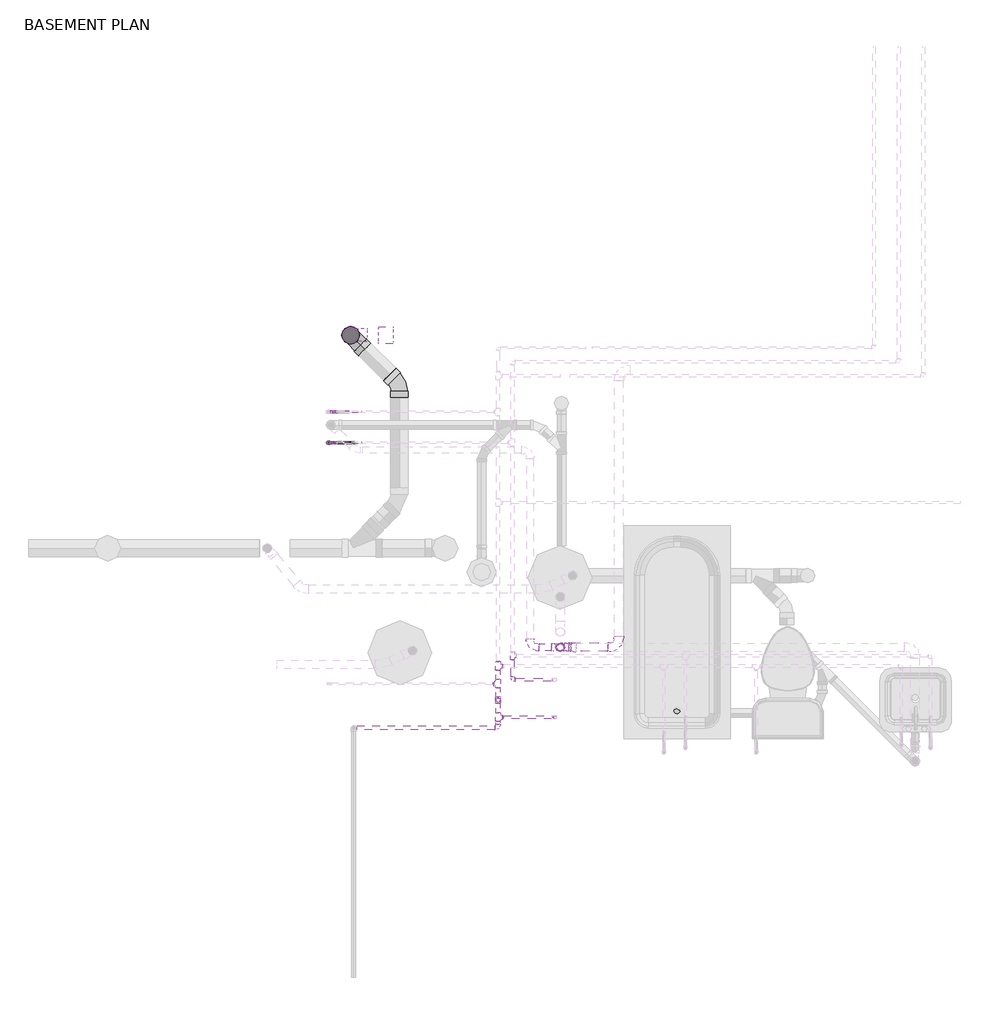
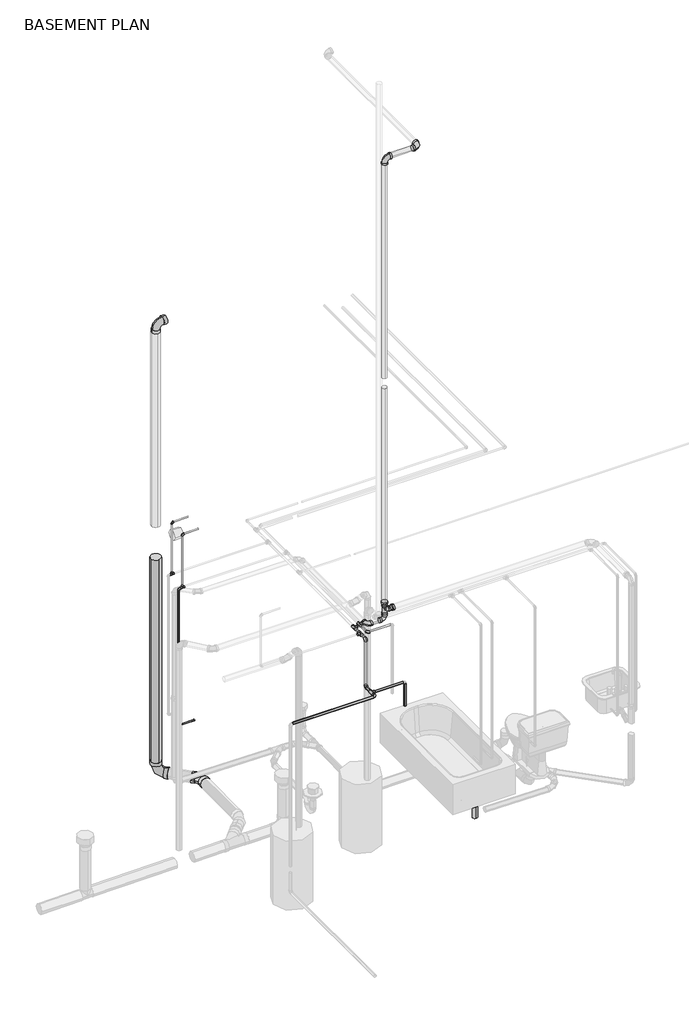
# One storey, part 2 of 6: 28 pipe fittings, 26 pipe segments.
"""IFC4 building model written with IfcOpenShell, lengths in millimetres."""

from ifc_helpers import new_model, si_unit, point, frame, frame_2d, origin, place, context, project, spatial, circle_curve, trimmed, segment, composite_curve, outline, extrude, transform, mapped, element, save
from components import bend_pvc_sch_40_dwv_standard_738aab8b, bend_pvc_sch_40_dwv_standard_1eaeee76, bend_pvc_sch_40_dwv_standard_a4b99d37, bend_pvc_sch_40_dwv_standard_6b8d37c2, bend_pvc_sch_40_dwv_standard_eef3f322, pipe_elbow_copper_k_a25a5501, pipe_elbow_copper_k_feaaf02c, pipe_elbow_copper_k_e010e987, pipe_elbow_copper_k_c5202fef, pipe_elbow_copper_k_aad62f2d, pipe_tee_copper_k_feafe2f1, pipe_tee_copper_k_ee363fbf, pipe_tee_copper_k_1a6ca384, pipe_transition_copper_k_b72b171f, pipe_transition_copper_k_b4f16853, pipe_transition_copper_k_b63fd5dd, reducer_pvc_sch_40_dwv_standard_230e9924, tee_sanitary_pvc_sch_40_dwv_standard_4981b708

model = new_model("IFC4")

# Units and contexts
model_context = context("Model", 3, world=origin())
ifc_project = project(units=[si_unit("LENGTHUNIT", "METRE", prefix="MILLI")], contexts=[model_context])

# Site, building, storey
site = spatial("IfcSite", under=ifc_project)
building = spatial("IfcBuilding", under=site)
storey = spatial("IfcBuildingStorey", under=building, Name="BASEMENT PLAN", Elevation=-2743.2)

# Pipe fittings
placement = place(None, origin())
bend_pvc_sch_40_dwv_standard_shape = bend_pvc_sch_40_dwv_standard_738aab8b(model_context)
element("IfcPipeFitting", 1, ObjectType="Bend - PVC - Sch 40 - DWV : Standard", at=placement, inside=storey, context=model_context, shape_type="MappedRepresentation", body=[
    mapped(bend_pvc_sch_40_dwv_standard_shape, transform((12840.5254798, 4910.504948, -457.2000069), x_axis=(0.0, -0.9999999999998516, -5.449149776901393e-07), y_axis=(1.0, 0.0, 0.0), z_axis=(0.0, -5.449149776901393e-07, 0.9999999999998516))),
])
element("IfcPipeFitting", 2, ObjectType="Bend - PVC - Sch 40 - DWV : Standard", at=placement, inside=storey, context=model_context, shape_type="MappedRepresentation", body=[
    mapped(bend_pvc_sch_40_dwv_standard_shape, transform((13056.4098972, 4910.504948, -457.2000069), x_axis=(1.0, 0.0, 0.0), y_axis=(0.0, 0.0, 1.0), z_axis=(0.0, -1.0, 0.0))),
])
bend_pvc_sch_40_dwv_standard_2_shape = bend_pvc_sch_40_dwv_standard_1eaeee76(model_context)
element("IfcPipeFitting", 3, ObjectType="Bend - PVC - Sch 40 - DWV : Standard", at=placement, inside=storey, context=model_context, shape_type="MappedRepresentation", body=[
    mapped(bend_pvc_sch_40_dwv_standard_2_shape, transform((13475.5254798, 4910.5049895, 5486.4), x_axis=(1.0, 0.0, 0.0), y_axis=(0.0, 1.0, 0.0), z_axis=(0.0, 0.0, 1.0))),
])
element("IfcPipeFitting", 4, ObjectType="Bend - PVC - Sch 40 - DWV : Standard", at=placement, inside=storey, context=model_context, shape_type="MappedRepresentation", body=[
    mapped(bend_pvc_sch_40_dwv_standard_2_shape, transform((13056.4098972, 4910.5049895, 5486.4), x_axis=(0.0, 0.0, 1.0), y_axis=(1.0, 0.0, 0.0), z_axis=(0.0, 1.0, 0.0))),
])
bend_pvc_sch_40_dwv_standard_3_shape = bend_pvc_sch_40_dwv_standard_a4b99d37(model_context)
element("IfcPipeFitting", 5, ObjectType="Bend - PVC - Sch 40 - DWV : Standard", at=placement, inside=storey, context=model_context, shape_type="MappedRepresentation", body=[
    mapped(bend_pvc_sch_40_dwv_standard_3_shape, transform((11556.8678751, 7142.1072744, 2531.9996701), x_axis=(0.0, 0.0, 1.0), y_axis=(1.0, 0.0, 0.0), z_axis=(0.0, 1.0, 0.0))),
])
bend_pvc_sch_40_dwv_standard_4_shape = bend_pvc_sch_40_dwv_standard_6b8d37c2(model_context)
element("IfcPipeFitting", 6, ObjectType="Bend - PVC - Sch 40 - DWV : Standard", at=placement, inside=storey, context=model_context, shape_type="MappedRepresentation", body=[
    mapped(bend_pvc_sch_40_dwv_standard_4_shape, transform((11556.8665683, 7141.4556909, -3249.6452653), x_axis=(0.0, -3.1470897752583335e-05, -0.9999999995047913), y_axis=(0.7071260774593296, -0.7070874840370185, 2.2252677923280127e-05), z_axis=(-0.7070874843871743, -0.7071260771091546, 2.2253892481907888e-05))),
])
bend_pvc_sch_40_dwv_standard_5_shape = bend_pvc_sch_40_dwv_standard_eef3f322(model_context)
element("IfcPipeFitting", 7, ObjectType="Bend - PVC - Sch 40 - DWV : Standard", at=placement, inside=storey, context=model_context, shape_type="MappedRepresentation", body=[
    mapped(bend_pvc_sch_40_dwv_standard_5_shape, transform((11905.1855124, 6793.1854619, -3253.2730352), x_axis=(0.0, 0.9999288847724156, 0.011925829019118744), y_axis=(-0.9999988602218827, 1.8005849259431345e-05, -0.0015097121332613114), z_axis=(-0.0015098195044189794, -0.011925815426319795, 0.9999277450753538))),
])
pipe_elbow_copper_k_shape = pipe_elbow_copper_k_a25a5501(model_context)
element("IfcPipeFitting", 8, ObjectType="Pipe Elbow : Copper- K", at=placement, inside=storey, context=model_context, shape_type="MappedRepresentation", body=[
    mapped(pipe_elbow_copper_k_shape, transform((12611.9254798, 4334.9724615, -951.8307802), x_axis=(1.0, 0.0, 0.0), y_axis=(0.0, 0.999999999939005, 1.1044907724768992e-05), z_axis=(0.0, -1.1044907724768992e-05, 0.999999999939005))),
])
pipe_elbow_copper_k_2_shape = pipe_elbow_copper_k_feaaf02c(model_context)
element("IfcPipeFitting", 9, ObjectType="Pipe Elbow : Copper- K", at=placement, inside=storey, context=model_context, shape_type="MappedRepresentation", body=[
    mapped(pipe_elbow_copper_k_2_shape, transform((12713.5254798, 4677.7551356, -372.5523585), x_axis=(0.0, -1.0, 0.0), y_axis=(1.0, 0.0, 0.0), z_axis=(0.0, 0.0, 1.0))),
])
pipe_elbow_copper_k_3_shape = pipe_elbow_copper_k_e010e987(model_context)
element("IfcPipeFitting", 10, ObjectType="Pipe Elbow : Copper- K", at=placement, inside=storey, context=model_context, shape_type="MappedRepresentation", body=[
    mapped(pipe_elbow_copper_k_3_shape, transform((12611.9254798, 4533.7067363, -951.8259352), x_axis=(0.0, 0.9999999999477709, 1.022048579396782e-05), y_axis=(0.0, -1.022048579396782e-05, 0.9999999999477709), z_axis=(1.0, 0.0, 0.0))),
])
pipe_elbow_copper_k_4_shape = pipe_elbow_copper_k_c5202fef(model_context)
element("IfcPipeFitting", 11, ObjectType="Pipe Elbow : Copper- K", at=placement, inside=storey, context=model_context, shape_type="MappedRepresentation", body=[
    mapped(pipe_elbow_copper_k_4_shape, transform((12611.9254798, 4533.6981833, -334.4523585), x_axis=(0.0, -2.044097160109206e-05, 0.9999999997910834), y_axis=(0.0, 0.9999999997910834, 2.044097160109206e-05), z_axis=(-1.0, 0.0, 0.0))),
])
pipe_elbow_copper_k_5_shape = pipe_elbow_copper_k_aad62f2d(model_context)
element("IfcPipeFitting", 12, ObjectType="Pipe Elbow : Copper- K", at=placement, inside=storey, context=model_context, shape_type="MappedRepresentation", body=[
    mapped(pipe_elbow_copper_k_5_shape, transform((11392.7254798, 6373.0955073, -372.5523585), x_axis=(-1.0, 0.0, 0.0), y_axis=(0.0, 0.0, -1.0), z_axis=(0.0, -1.0, 0.0))),
])
element("IfcPipeFitting", 13, ObjectType="Pipe Elbow : Copper- K", at=placement, inside=storey, context=model_context, shape_type="MappedRepresentation", body=[
    mapped(pipe_elbow_copper_k_5_shape, transform((11392.7254798, 6373.0955073, -2133.6), x_axis=(0.0, 0.0, -1.0), y_axis=(1.0, 0.0, 0.0), z_axis=(0.0, -1.0, 0.0))),
])
element("IfcPipeFitting", 14, ObjectType="Pipe Elbow : Copper- K", at=placement, inside=storey, context=model_context, shape_type="MappedRepresentation", body=[
    mapped(pipe_elbow_copper_k_5_shape, transform((11437.2386676, 6593.4490306, 330.2), x_axis=(0.0, 0.0, 1.0), y_axis=(1.0, 0.0, 0.0), z_axis=(0.0, 1.0, 0.0))),
])
element("IfcPipeFitting", 15, ObjectType="Pipe Elbow : Copper- K", at=placement, inside=storey, context=model_context, shape_type="MappedRepresentation", body=[
    mapped(pipe_elbow_copper_k_5_shape, transform((11436.6879994, 6373.0955073, 311.15), x_axis=(0.0, 0.0, 1.0), y_axis=(1.0, 0.0, 0.0), z_axis=(0.0, 1.0, 0.0))),
])
pipe_tee_copper_k_shape = pipe_tee_copper_k_feafe2f1(model_context)
element("IfcPipeFitting", 16, ObjectType="Pipe Tee : Copper- K", at=placement, inside=storey, context=model_context, shape_type="MappedRepresentation", body=[
    mapped(pipe_tee_copper_k_shape, transform((12611.9254798, 4411.6327444, -951.8299335), x_axis=(0.0, -0.999999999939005, -1.1044907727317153e-05), y_axis=(-1.0, 0.0, 0.0), z_axis=(0.0, 1.1044907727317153e-05, -0.999999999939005))),
])
element("IfcPipeFitting", 17, ObjectType="Pipe Tee : Copper- K", at=placement, inside=storey, context=model_context, shape_type="MappedRepresentation", body=[
    mapped(pipe_tee_copper_k_shape, transform((12611.9254798, 4776.6618491, -334.4523585), x_axis=(0.0, -1.0, 0.0), y_axis=(-1.0, 0.0, 0.0), z_axis=(0.0, 0.0, -1.0))),
])
element("IfcPipeFitting", 18, ObjectType="Pipe Tee : Copper- K", at=placement, inside=storey, context=model_context, shape_type="MappedRepresentation", body=[
    mapped(pipe_tee_copper_k_shape, transform((12611.9254798, 4650.3490306, -334.4523585), x_axis=(0.0, -1.0, 0.0), y_axis=(1.0, 0.0, 0.0), z_axis=(0.0, 0.0, 1.0))),
])
pipe_tee_copper_k_2_shape = pipe_tee_copper_k_ee363fbf(model_context)
element("IfcPipeFitting", 19, ObjectType="Pipe Tee : Copper- K", at=placement, inside=storey, context=model_context, shape_type="MappedRepresentation", body=[
    mapped(pipe_tee_copper_k_2_shape, transform((12713.5254798, 4850.0281655, -372.5523585), x_axis=(0.0, -1.0, 0.0), y_axis=(-1.0, 0.0, 0.0), z_axis=(0.0, 0.0, -1.0))),
])
pipe_tee_copper_k_3_shape = pipe_tee_copper_k_1a6ca384(model_context)
element("IfcPipeFitting", 20, ObjectType="Pipe Tee : Copper- K", at=placement, inside=storey, context=model_context, shape_type="MappedRepresentation", body=[
    mapped(pipe_tee_copper_k_3_shape, transform((11437.2386676, 6593.4490306, -334.4523585), x_axis=(1.0, 0.0, 0.0), y_axis=(0.0, 0.0, -1.0), z_axis=(0.0, 1.0, 0.0))),
])
element("IfcPipeFitting", 21, ObjectType="Pipe Tee : Copper- K", at=placement, inside=storey, context=model_context, shape_type="MappedRepresentation", body=[
    mapped(pipe_tee_copper_k_3_shape, transform((11436.6879994, 6373.0955073, -372.5523585), x_axis=(1.0, 0.0, 0.0), y_axis=(0.0, 0.0, -1.0), z_axis=(0.0, 1.0, 0.0))),
])
pipe_transition_copper_k_shape = pipe_transition_copper_k_b72b171f(model_context)
element("IfcPipeFitting", 22, ObjectType="Pipe Transition : Copper- K", at=placement, inside=storey, context=model_context, shape_type="MappedRepresentation", body=[
    mapped(pipe_transition_copper_k_shape, transform((12642.0879798, 4411.6327444, -951.8299335), x_axis=(1.0, 0.0, 0.0), y_axis=(0.0, 0.999999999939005, 1.1044907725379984e-05), z_axis=(0.0, -1.1044907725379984e-05, 0.999999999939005))),
])
pipe_transition_copper_k_2_shape = pipe_transition_copper_k_b4f16853(model_context)
element("IfcPipeFitting", 23, ObjectType="Pipe Transition : Copper- K", at=placement, inside=storey, context=model_context, shape_type="MappedRepresentation", body=[
    mapped(pipe_transition_copper_k_2_shape, transform((12642.0879798, 4776.6618491, -334.4523585), x_axis=(1.0, 0.0, 0.0), y_axis=(0.0, 1.0, 0.0), z_axis=(0.0, 0.0, 1.0))),
])
element("IfcPipeFitting", 24, ObjectType="Pipe Transition : Copper- K", at=placement, inside=storey, context=model_context, shape_type="MappedRepresentation", body=[
    mapped(pipe_transition_copper_k_2_shape, transform((12611.9254798, 4806.8243491, -334.4523585), x_axis=(0.0, 1.0, 0.0), y_axis=(-1.0, 0.0, 0.0), z_axis=(0.0, 0.0, 1.0))),
])
pipe_transition_copper_k_3_shape = pipe_transition_copper_k_b63fd5dd(model_context)
element("IfcPipeFitting", 25, ObjectType="Pipe Transition : Copper- K", at=placement, inside=storey, context=model_context, shape_type="MappedRepresentation", body=[
    mapped(pipe_transition_copper_k_3_shape, transform((12581.7629798, 4650.3490306, -334.4523585), x_axis=(-1.0, 0.0, 0.0), y_axis=(0.0, -1.0, 0.0), z_axis=(0.0, 0.0, 1.0))),
])
reducer_pvc_sch_40_dwv_standard_shape = reducer_pvc_sch_40_dwv_standard_230e9924(model_context)
element("IfcPipeFitting", 26, ObjectType="Reducer - PVC - Sch 40 - DWV : Standard", at=placement, inside=storey, context=model_context, shape_type="MappedRepresentation", body=[
    mapped(reducer_pvc_sch_40_dwv_standard_shape, transform((13056.4098972, 4910.5049895, -282.3901833), x_axis=(0.0, 0.0, 1.0), y_axis=(-1.0, 0.0, 0.0), z_axis=(0.0, -1.0, 0.0))),
])
element("IfcPipeFitting", 27, ObjectType="Reducer - PVC - Sch 40 - DWV : Standard", at=placement, inside=storey, context=model_context, shape_type="MappedRepresentation", body=[
    mapped(reducer_pvc_sch_40_dwv_standard_shape, transform((13118.3096972, 4910.5049895, -344.2899833), x_axis=(1.0, 0.0, 0.0), y_axis=(0.0, 1.0, 0.0), z_axis=(0.0, 0.0, 1.0))),
])
tee_sanitary_pvc_sch_40_dwv_standard_shape = tee_sanitary_pvc_sch_40_dwv_standard_4981b708(model_context)
element("IfcPipeFitting", 28, ObjectType="Tee Sanitary - PVC - Sch 40 - DWV : Standard", at=placement, inside=storey, context=model_context, shape_type="MappedRepresentation", body=[
    mapped(tee_sanitary_pvc_sch_40_dwv_standard_shape, transform((13056.4098972, 4910.5049895, -344.2899833), x_axis=(0.0, 0.0, -1.0), y_axis=(-1.0, 0.0, 0.0), z_axis=(0.0, 1.0, 0.0))),
])

# Pipe segments
element("IfcPipeSegment", 29, ObjectType="Cast Iron - SAN/STORM", at=placement, inside=storey, context=model_context, shape_type="SweptSolid", body=[
    extrude(outline(composite_curve([segment(trimmed(circle_curve(frame_2d((0.0, 30.1624999)), 30.1625), [point((-30.1625, 30.1624999))], [point((0.0, 60.3249999))], False, "CARTESIAN"), True, "CONTINUOUS"), segment(trimmed(circle_curve(frame_2d((0.0, 30.1624999)), 30.1625), [point((0.0, 60.3249999))], [point((30.1625, 30.1624999))], False, "CARTESIAN"), True, "CONTINUOUS"), segment(trimmed(circle_curve(frame_2d((0.0, 30.1624999)), 30.1625), [point((30.1625, 30.1624999))], [point((0.0, 0.0))], False, "CARTESIAN"), True, "CONTINUOUS"), segment(trimmed(circle_curve(frame_2d((0.0, 30.1624999)), 30.1625), [point((0.0, 0.0))], [point((-30.1625, 30.1624999))], False, "CARTESIAN"), True, "CONTINUOUS")], self_intersect=False)), frame((13888.2767062, 4410.5952507, -3018.9380722), z_axis=(0.0, -2.9941069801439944e-05, 0.9999999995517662), x_axis=(1.0, 0.0, 0.0)), (0.0, 0.0, 1.0), 312.0834169),
])
element("IfcPipeSegment", 30, ObjectType="Cast Iron - SAN/STORM", at=placement, inside=storey, context=model_context, shape_type="SweptSolid", body=[
    extrude(outline(composite_curve([segment(trimmed(circle_curve(frame_2d((0.0, -61.1187499)), 61.11875), [point((-61.11875, -61.1187499))], [point((0.0, 0.0))], False, "CARTESIAN"), True, "CONTINUOUS"), segment(trimmed(circle_curve(frame_2d((0.0, -61.1187499)), 61.11875), [point((0.0, 0.0))], [point((61.11875, -61.1187499))], False, "CARTESIAN"), True, "CONTINUOUS"), segment(trimmed(circle_curve(frame_2d((0.0, -61.1187499)), 61.11875), [point((61.11875, -61.1187499))], [point((0.0, -122.2374999))], False, "CARTESIAN"), True, "CONTINUOUS"), segment(trimmed(circle_curve(frame_2d((0.0, -61.1187499)), 61.11875), [point((0.0, -122.2374999))], [point((-61.11875, -61.1187499))], False, "CARTESIAN"), True, "CONTINUOUS")], self_intersect=False)), frame((11556.8665683, 7080.3414378, -3106.7631533), z_axis=(4.992467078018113e-07, 0.00011636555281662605, 0.9999999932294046), x_axis=(-0.9999999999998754, 5.8093974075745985e-11, 4.992467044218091e-07)), (0.0, 0.0, 1.0), 2617.6864191),
])
element("IfcPipeSegment", 31, ObjectType="Cast Iron - SAN/STORM", at=placement, inside=storey, context=model_context, shape_type="SweptSolid", body=[
    extrude(outline(composite_curve([segment(trimmed(circle_curve(frame_2d((7141.7886235, -279.0179278)), 61.11875), [point((7080.6698735, -279.0179278))], [point((7141.7886235, -217.8991778))], False, "CARTESIAN"), True, "CONTINUOUS"), segment(trimmed(circle_curve(frame_2d((7141.7886235, -279.0179278)), 61.11875), [point((7141.7886235, -217.8991778))], [point((7202.9073735, -279.0179278))], False, "CARTESIAN"), True, "CONTINUOUS"), segment(trimmed(circle_curve(frame_2d((7141.7886235, -279.0179278)), 61.11875), [point((7202.9073735, -279.0179278))], [point((7141.7886235, -340.1366778))], False, "CARTESIAN"), True, "CONTINUOUS"), segment(trimmed(circle_curve(frame_2d((7141.7886235, -279.0179278)), 61.11875), [point((7141.7886235, -340.1366778))], [point((7080.6698735, -279.0179278))], False, "CARTESIAN"), True, "CONTINUOUS")], self_intersect=False)), frame((11756.4761564, 0.0, 0.0), z_axis=(1.0, 0.0, 0.0), x_axis=(0.0, 1.0, 0.0)), (0.0, 0.0, 1.0), 102.068088),
])
element("IfcPipeSegment", 32, ObjectType="Cast Iron - SAN/STORM", at=placement, inside=storey, context=model_context, shape_type="SweptSolid", body=[
    extrude(outline(composite_curve([segment(trimmed(circle_curve(frame_2d((0.0, 50.403125)), 50.403125), [point((-50.403125, 50.403125))], [point((0.0, 100.80625))], False, "CARTESIAN"), True, "CONTINUOUS"), segment(trimmed(circle_curve(frame_2d((0.0, 50.403125)), 50.403125), [point((0.0, 100.80625))], [point((50.403125, 50.403125))], False, "CARTESIAN"), True, "CONTINUOUS"), segment(trimmed(circle_curve(frame_2d((0.0, 50.403125)), 50.403125), [point((50.403125, 50.403125))], [point((0.0, 0.0))], False, "CARTESIAN"), True, "CONTINUOUS"), segment(trimmed(circle_curve(frame_2d((0.0, 50.403125)), 50.403125), [point((0.0, 0.0))], [point((-50.403125, 50.403125))], False, "CARTESIAN"), True, "CONTINUOUS")], self_intersect=False)), frame((11556.8678751, 7091.4086063, -75.2960125), z_axis=(0.0, 0.00011862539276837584, 0.9999999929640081), x_axis=(1.0, 0.0, 0.0)), (0.0, 0.0, 1.0), 2491.4014793),
])
element("IfcPipeSegment", 33, ObjectType="Copper", at=placement, inside=storey, context=model_context, shape_type="SweptSolid", body=[
    extrude(outline(composite_curve([segment(trimmed(circle_curve(frame_2d((4334.9724615, -951.8313413)), 14.2875), [point((4320.6849615, -951.8313413))], [point((4334.9724615, -937.5438413))], False, "CARTESIAN"), True, "CONTINUOUS"), segment(trimmed(circle_curve(frame_2d((4334.9724615, -951.8313413)), 14.2875), [point((4334.9724615, -937.5438413))], [point((4349.2599615, -951.8313413))], False, "CARTESIAN"), True, "CONTINUOUS"), segment(trimmed(circle_curve(frame_2d((4334.9724615, -951.8313413)), 14.2875), [point((4349.2599615, -951.8313413))], [point((4334.9724615, -966.1188413))], False, "CARTESIAN"), True, "CONTINUOUS"), segment(trimmed(circle_curve(frame_2d((4334.9724615, -951.8313413)), 14.2875), [point((4334.9724615, -966.1188413))], [point((4320.6849615, -951.8313413))], False, "CARTESIAN"), True, "CONTINUOUS")], self_intersect=False)), frame((11602.0554462, 0.0, 0.0), z_axis=(1.0, 0.0, 0.0), x_axis=(0.0, 1.0, 0.0)), (0.0, 0.0, 1.0), 986.0575336),
])
element("IfcPipeSegment", 34, ObjectType="Copper", at=placement, inside=storey, context=model_context, shape_type="SweptSolid", body=[
    extrude(outline(composite_curve([segment(trimmed(circle_curve(frame_2d((4411.6327443, -951.8226445)), 11.1125), [point((4400.5202443, -951.8226445))], [point((4411.6327443, -940.7101445))], False, "CARTESIAN"), True, "CONTINUOUS"), segment(trimmed(circle_curve(frame_2d((4411.6327443, -951.8226445)), 11.1125), [point((4411.6327443, -940.7101445))], [point((4422.7452443, -951.8226445))], False, "CARTESIAN"), True, "CONTINUOUS"), segment(trimmed(circle_curve(frame_2d((4411.6327443, -951.8226445)), 11.1125), [point((4422.7452443, -951.8226445))], [point((4411.6327443, -962.9351445))], False, "CARTESIAN"), True, "CONTINUOUS"), segment(trimmed(circle_curve(frame_2d((4411.6327443, -951.8226445)), 11.1125), [point((4411.6327443, -962.9351445))], [point((4400.5202443, -951.8226445))], False, "CARTESIAN"), True, "CONTINUOUS")], self_intersect=False)), frame((12649.2317298, 0.0, 0.0), z_axis=(1.0, 0.0, 0.0), x_axis=(0.0, 1.0, 0.0)), (0.0, 0.0, 1.0), 348.45625),
])
element("IfcPipeSegment", 35, ObjectType="Copper", at=placement, inside=storey, context=model_context, shape_type="SweptSolid", body=[
    extrude(outline(composite_curve([segment(trimmed(circle_curve(frame_2d((-951.8305172, 12611.9254798)), 14.2875), [point((-951.8305172, 12626.2129798))], [point((-937.5430172, 12611.9254798))], False, "CARTESIAN"), True, "CONTINUOUS"), segment(trimmed(circle_curve(frame_2d((-951.8305172, 12611.9254798)), 14.2875), [point((-937.5430172, 12611.9254798))], [point((-951.8305172, 12597.6379798))], False, "CARTESIAN"), True, "CONTINUOUS"), segment(trimmed(circle_curve(frame_2d((-951.8305172, 12611.9254798)), 14.2875), [point((-951.8305172, 12597.6379798))], [point((-966.1180172, 12611.9254798))], False, "CARTESIAN"), True, "CONTINUOUS"), segment(trimmed(circle_curve(frame_2d((-951.8305172, 12611.9254798)), 14.2875), [point((-966.1180172, 12611.9254798))], [point((-951.8305172, 12626.2129798))], False, "CARTESIAN"), True, "CONTINUOUS")], self_intersect=False)), frame((0.0, 4358.7849615, 0.0), z_axis=(0.0, 1.0, 0.0), x_axis=(0.0, 0.0, 1.0)), (0.0, 0.0, 1.0), 22.6852829),
])
element("IfcPipeSegment", 36, ObjectType="Copper", at=placement, inside=storey, context=model_context, shape_type="SweptSolid", body=[
    extrude(outline(composite_curve([segment(trimmed(circle_curve(frame_2d((0.0, -11.1125)), 11.1125), [point((-11.1125, -11.1125))], [point((0.0, 0.0))], False, "CARTESIAN"), True, "CONTINUOUS"), segment(trimmed(circle_curve(frame_2d((0.0, -11.1125)), 11.1125), [point((0.0, 0.0))], [point((11.1125, -11.1125))], False, "CARTESIAN"), True, "CONTINUOUS"), segment(trimmed(circle_curve(frame_2d((0.0, -11.1125)), 11.1125), [point((11.1125, -11.1125))], [point((0.0, -22.225))], False, "CARTESIAN"), True, "CONTINUOUS"), segment(trimmed(circle_curve(frame_2d((0.0, -11.1125)), 11.1125), [point((0.0, -22.225))], [point((-11.1125, -11.1125))], False, "CARTESIAN"), True, "CONTINUOUS")], self_intersect=False)), frame((13018.3254798, 4400.520861, -1261.3853208), z_axis=(0.0, -2.1346763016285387e-06, 0.9999999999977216), x_axis=(-1.0, 0.0, 0.0)), (0.0, 0.0, 1.0), 288.9251525),
])
element("IfcPipeSegment", 37, ObjectType="Copper", at=placement, inside=storey, context=model_context, shape_type="SweptSolid", body=[
    extrude(outline(composite_curve([segment(trimmed(circle_curve(frame_2d((4677.7551356, -372.5523585)), 11.1125), [point((4688.8676356, -372.5523585))], [point((4677.7551356, -383.6648585))], False, "CARTESIAN"), True, "CONTINUOUS"), segment(trimmed(circle_curve(frame_2d((4677.7551356, -372.5523585)), 11.1125), [point((4677.7551356, -383.6648585))], [point((4666.6426356, -372.5523585))], False, "CARTESIAN"), True, "CONTINUOUS"), segment(trimmed(circle_curve(frame_2d((4677.7551356, -372.5523585)), 11.1125), [point((4666.6426356, -372.5523585))], [point((4677.7551356, -361.4398585))], False, "CARTESIAN"), True, "CONTINUOUS"), segment(trimmed(circle_curve(frame_2d((4677.7551356, -372.5523585)), 11.1125), [point((4677.7551356, -361.4398585))], [point((4688.8676356, -372.5523585))], False, "CARTESIAN"), True, "CONTINUOUS")], self_intersect=False)), frame((12734.1629798, 0.0, 0.0), z_axis=(1.0, 0.0, 0.0), x_axis=(0.0, 1.0, 0.0)), (0.0, 0.0, 1.0), 263.525),
])
element("IfcPipeSegment", 38, ObjectType="Copper", at=placement, inside=storey, context=model_context, shape_type="SweptSolid", body=[
    extrude(outline(composite_curve([segment(trimmed(circle_curve(frame_2d((0.0, 14.2875)), 14.2875), [point((0.0, 28.575))], [point((14.2874999, 14.2875))], False, "CARTESIAN"), True, "CONTINUOUS"), segment(trimmed(circle_curve(frame_2d((0.0, 14.2875)), 14.2875), [point((14.2874999, 14.2875))], [point((0.0, 0.0))], False, "CARTESIAN"), True, "CONTINUOUS"), segment(trimmed(circle_curve(frame_2d((0.0, 14.2875)), 14.2875), [point((0.0, 0.0))], [point((-14.2875, 14.2875))], False, "CARTESIAN"), True, "CONTINUOUS"), segment(trimmed(circle_curve(frame_2d((0.0, 14.2875)), 14.2875), [point((-14.2875, 14.2875))], [point((0.0, 28.575))], False, "CARTESIAN"), True, "CONTINUOUS")], self_intersect=False)), frame((12597.6379798, 4441.7952444, -951.8296003), z_axis=(0.0, 0.999999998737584, 5.0247705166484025e-05), x_axis=(0.0, -5.0247705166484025e-05, 0.999999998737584)), (0.0, 0.0, 1.0), 68.0987487),
])
element("IfcPipeSegment", 39, ObjectType="Copper", at=placement, inside=storey, context=model_context, shape_type="SweptSolid", body=[
    extrude(outline(composite_curve([segment(trimmed(circle_curve(frame_2d((0.0, 14.2875)), 14.2875), [point((-14.2875, 14.2875))], [point((0.0, 28.575))], False, "CARTESIAN"), True, "CONTINUOUS"), segment(trimmed(circle_curve(frame_2d((0.0, 14.2875)), 14.2875), [point((0.0, 28.575))], [point((14.2875, 14.2875))], False, "CARTESIAN"), True, "CONTINUOUS"), segment(trimmed(circle_curve(frame_2d((0.0, 14.2875)), 14.2875), [point((14.2875, 14.2875))], [point((0.0, 0.0))], False, "CARTESIAN"), True, "CONTINUOUS"), segment(trimmed(circle_curve(frame_2d((0.0, 14.2875)), 14.2875), [point((0.0, 0.0))], [point((-14.2875, 14.2875))], False, "CARTESIAN"), True, "CONTINUOUS")], self_intersect=False)), frame((12611.9254798, 4519.4187496, -928.0133819), z_axis=(0.0, -1.3303282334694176e-05, 0.9999999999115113), x_axis=(1.0, 0.0, 0.0)), (0.0, 0.0, 1.0), 569.7478466),
])
element("IfcPipeSegment", 40, ObjectType="Copper", at=placement, inside=storey, context=model_context, shape_type="SweptSolid", body=[
    extrude(outline(composite_curve([segment(trimmed(circle_curve(frame_2d((-372.5523585, 12713.5254798)), 11.1125), [point((-372.5523585, 12724.6379798))], [point((-361.4398585, 12713.5254798))], False, "CARTESIAN"), True, "CONTINUOUS"), segment(trimmed(circle_curve(frame_2d((-372.5523585, 12713.5254798)), 11.1125), [point((-361.4398585, 12713.5254798))], [point((-372.5523585, 12702.4129798))], False, "CARTESIAN"), True, "CONTINUOUS"), segment(trimmed(circle_curve(frame_2d((-372.5523585, 12713.5254798)), 11.1125), [point((-372.5523585, 12702.4129798))], [point((-383.6648585, 12713.5254798))], False, "CARTESIAN"), True, "CONTINUOUS"), segment(trimmed(circle_curve(frame_2d((-372.5523585, 12713.5254798)), 11.1125), [point((-383.6648585, 12713.5254798))], [point((-372.5523585, 12724.6379798))], False, "CARTESIAN"), True, "CONTINUOUS")], self_intersect=False)), frame((0.0, 4698.3926356, 0.0), z_axis=(0.0, 1.0, 0.0), x_axis=(0.0, 0.0, 1.0)), (0.0, 0.0, 1.0), 124.6480299),
])
element("IfcPipeSegment", 41, ObjectType="Copper", at=placement, inside=storey, context=model_context, shape_type="SweptSolid", body=[
    extrude(outline(composite_curve([segment(trimmed(circle_curve(frame_2d((-334.4523585, 12611.9254798)), 14.2875), [point((-334.4523585, 12626.2129798))], [point((-320.1648585, 12611.9254798))], False, "CARTESIAN"), True, "CONTINUOUS"), segment(trimmed(circle_curve(frame_2d((-334.4523585, 12611.9254798)), 14.2875), [point((-320.1648585, 12611.9254798))], [point((-334.4523585, 12597.6379798))], False, "CARTESIAN"), True, "CONTINUOUS"), segment(trimmed(circle_curve(frame_2d((-334.4523585, 12611.9254798)), 14.2875), [point((-334.4523585, 12597.6379798))], [point((-348.7398585, 12611.9254798))], False, "CARTESIAN"), True, "CONTINUOUS"), segment(trimmed(circle_curve(frame_2d((-334.4523585, 12611.9254798)), 14.2875), [point((-348.7398585, 12611.9254798))], [point((-334.4523585, 12626.2129798))], False, "CARTESIAN"), True, "CONTINUOUS")], self_intersect=False)), frame((0.0, 4680.5115306, 0.0), z_axis=(0.0, 1.0, 0.0), x_axis=(0.0, 0.0, 1.0)), (0.0, 0.0, 1.0), 65.9878184),
])
element("IfcPipeSegment", 42, ObjectType="Copper", at=placement, inside=storey, context=model_context, shape_type="SweptSolid", body=[
    extrude(outline(composite_curve([segment(trimmed(circle_curve(frame_2d((6373.0955073, -372.5523585)), 7.9375), [point((6381.0330073, -372.5523585))], [point((6373.0955073, -380.4898585))], False, "CARTESIAN"), True, "CONTINUOUS"), segment(trimmed(circle_curve(frame_2d((6373.0955073, -372.5523585)), 7.9375), [point((6373.0955073, -380.4898585))], [point((6365.1580073, -372.5523585))], False, "CARTESIAN"), True, "CONTINUOUS"), segment(trimmed(circle_curve(frame_2d((6373.0955073, -372.5523585)), 7.9375), [point((6365.1580073, -372.5523585))], [point((6373.0955073, -364.6148585))], False, "CARTESIAN"), True, "CONTINUOUS"), segment(trimmed(circle_curve(frame_2d((6373.0955073, -372.5523585)), 7.9375), [point((6373.0955073, -364.6148585))], [point((6381.0330073, -372.5523585))], False, "CARTESIAN"), True, "CONTINUOUS")], self_intersect=False)), frame((11410.1879798, 0.0, 0.0), z_axis=(1.0, 0.0, 0.0), x_axis=(0.0, 1.0, 0.0)), (0.0, 0.0, 1.0), 2.6875196),
])
element("IfcPipeSegment", 43, ObjectType="Copper", at=placement, inside=storey, context=model_context, shape_type="SweptSolid", body=[
    extrude(outline(composite_curve([segment(trimmed(circle_curve(frame_2d((6373.0955073, -2133.6)), 7.9375), [point((6365.1580073, -2133.6))], [point((6373.0955073, -2125.6625))], False, "CARTESIAN"), True, "CONTINUOUS"), segment(trimmed(circle_curve(frame_2d((6373.0955073, -2133.6)), 7.9375), [point((6373.0955073, -2125.6625))], [point((6381.0330073, -2133.6))], False, "CARTESIAN"), True, "CONTINUOUS"), segment(trimmed(circle_curve(frame_2d((6373.0955073, -2133.6)), 7.9375), [point((6381.0330073, -2133.6))], [point((6373.0955073, -2141.5375))], False, "CARTESIAN"), True, "CONTINUOUS"), segment(trimmed(circle_curve(frame_2d((6373.0955073, -2133.6)), 7.9375), [point((6373.0955073, -2141.5375))], [point((6365.1580073, -2133.6))], False, "CARTESIAN"), True, "CONTINUOUS")], self_intersect=False)), frame((11410.1879798, 0.0, 0.0), z_axis=(1.0, 0.0, 0.0), x_axis=(0.0, 1.0, 0.0)), (0.0, 0.0, 1.0), 173.0375),
])
element("IfcPipeSegment", 44, ObjectType="Copper", at=placement, inside=storey, context=model_context, shape_type="SweptSolid", body=[
    extrude(outline(composite_curve([segment(trimmed(circle_curve(frame_2d((11392.7254798, 6373.0955073)), 7.9375), [point((11400.6629798, 6373.0955073))], [point((11392.7254798, 6365.1580073))], False, "CARTESIAN"), True, "CONTINUOUS"), segment(trimmed(circle_curve(frame_2d((11392.7254798, 6373.0955073)), 7.9375), [point((11392.7254798, 6365.1580073))], [point((11384.7879798, 6373.0955073))], False, "CARTESIAN"), True, "CONTINUOUS"), segment(trimmed(circle_curve(frame_2d((11392.7254798, 6373.0955073)), 7.9375), [point((11384.7879798, 6373.0955073))], [point((11392.7254798, 6381.0330073))], False, "CARTESIAN"), True, "CONTINUOUS"), segment(trimmed(circle_curve(frame_2d((11392.7254798, 6373.0955073)), 7.9375), [point((11392.7254798, 6381.0330073))], [point((11400.6629798, 6373.0955073))], False, "CARTESIAN"), True, "CONTINUOUS")], self_intersect=False)), frame((0.0, 0.0, -2116.1375), z_axis=(0.0, 0.0, 1.0), x_axis=(1.0, 0.0, 0.0)), (0.0, 0.0, 1.0), 1726.1226415),
])
element("IfcPipeSegment", 45, ObjectType="Copper", at=placement, inside=storey, context=model_context, shape_type="SweptSolid", body=[
    extrude(outline(composite_curve([segment(trimmed(circle_curve(frame_2d((11437.2386676, 6593.4490306)), 7.9375), [point((11429.3011676, 6593.4490306))], [point((11437.2386676, 6601.3865306))], False, "CARTESIAN"), True, "CONTINUOUS"), segment(trimmed(circle_curve(frame_2d((11437.2386676, 6593.4490306)), 7.9375), [point((11437.2386676, 6601.3865306))], [point((11445.1761676, 6593.4490306))], False, "CARTESIAN"), True, "CONTINUOUS"), segment(trimmed(circle_curve(frame_2d((11437.2386676, 6593.4490306)), 7.9375), [point((11445.1761676, 6593.4490306))], [point((11437.2386676, 6585.5115306))], False, "CARTESIAN"), True, "CONTINUOUS"), segment(trimmed(circle_curve(frame_2d((11437.2386676, 6593.4490306)), 7.9375), [point((11437.2386676, 6585.5115306))], [point((11429.3011676, 6593.4490306))], False, "CARTESIAN"), True, "CONTINUOUS")], self_intersect=False)), frame((0.0, 0.0, -310.6398585), z_axis=(0.0, 0.0, 1.0), x_axis=(1.0, 0.0, 0.0)), (0.0, 0.0, 1.0), 623.3773585),
])
element("IfcPipeSegment", 46, ObjectType="Copper", at=placement, inside=storey, context=model_context, shape_type="SweptSolid", body=[
    extrude(outline(composite_curve([segment(trimmed(circle_curve(frame_2d((6593.4490306, 330.2)), 7.9375), [point((6585.5115306, 330.2))], [point((6593.4490306, 338.1375))], False, "CARTESIAN"), True, "CONTINUOUS"), segment(trimmed(circle_curve(frame_2d((6593.4490306, 330.2)), 7.9375), [point((6593.4490306, 338.1375))], [point((6601.3865306, 330.2))], False, "CARTESIAN"), True, "CONTINUOUS"), segment(trimmed(circle_curve(frame_2d((6593.4490306, 330.2)), 7.9375), [point((6601.3865306, 330.2))], [point((6593.4490306, 322.2625))], False, "CARTESIAN"), True, "CONTINUOUS"), segment(trimmed(circle_curve(frame_2d((6593.4490306, 330.2)), 7.9375), [point((6593.4490306, 322.2625))], [point((6585.5115306, 330.2))], False, "CARTESIAN"), True, "CONTINUOUS")], self_intersect=False)), frame((11454.7011676, 0.0, 0.0), z_axis=(1.0, 0.0, 0.0), x_axis=(0.0, 1.0, 0.0)), (0.0, 0.0, 1.0), 179.3875),
])
element("IfcPipeSegment", 47, ObjectType="Copper", at=placement, inside=storey, context=model_context, shape_type="SweptSolid", body=[
    extrude(outline(composite_curve([segment(trimmed(circle_curve(frame_2d((11436.6879994, 6373.0955073)), 7.9375), [point((11428.7504994, 6373.0955073))], [point((11436.6879994, 6381.0330073))], False, "CARTESIAN"), True, "CONTINUOUS"), segment(trimmed(circle_curve(frame_2d((11436.6879994, 6373.0955073)), 7.9375), [point((11436.6879994, 6381.0330073))], [point((11444.6254994, 6373.0955073))], False, "CARTESIAN"), True, "CONTINUOUS"), segment(trimmed(circle_curve(frame_2d((11436.6879994, 6373.0955073)), 7.9375), [point((11444.6254994, 6373.0955073))], [point((11436.6879994, 6365.1580073))], False, "CARTESIAN"), True, "CONTINUOUS"), segment(trimmed(circle_curve(frame_2d((11436.6879994, 6373.0955073)), 7.9375), [point((11436.6879994, 6365.1580073))], [point((11428.7504994, 6373.0955073))], False, "CARTESIAN"), True, "CONTINUOUS")], self_intersect=False)), frame((0.0, 0.0, -348.7398585), z_axis=(0.0, 0.0, 1.0), x_axis=(1.0, 0.0, 0.0)), (0.0, 0.0, 1.0), 642.4273585),
])
element("IfcPipeSegment", 48, ObjectType="Copper", at=placement, inside=storey, context=model_context, shape_type="SweptSolid", body=[
    extrude(outline(composite_curve([segment(trimmed(circle_curve(frame_2d((6373.0955073, 311.15)), 7.9375), [point((6365.1580073, 311.15))], [point((6373.0955073, 319.0875))], False, "CARTESIAN"), True, "CONTINUOUS"), segment(trimmed(circle_curve(frame_2d((6373.0955073, 311.15)), 7.9375), [point((6373.0955073, 319.0875))], [point((6381.0330073, 311.15))], False, "CARTESIAN"), True, "CONTINUOUS"), segment(trimmed(circle_curve(frame_2d((6373.0955073, 311.15)), 7.9375), [point((6381.0330073, 311.15))], [point((6373.0955073, 303.2125))], False, "CARTESIAN"), True, "CONTINUOUS"), segment(trimmed(circle_curve(frame_2d((6373.0955073, 311.15)), 7.9375), [point((6373.0955073, 303.2125))], [point((6365.1580073, 311.15))], False, "CARTESIAN"), True, "CONTINUOUS")], self_intersect=False)), frame((11454.1504994, 0.0, 0.0), z_axis=(1.0, 0.0, 0.0), x_axis=(0.0, 1.0, 0.0)), (0.0, 0.0, 1.0), 179.3875),
])
element("IfcPipeSegment", 49, ObjectType="Copper", at=placement, inside=storey, context=model_context, shape_type="SweptSolid", body=[
    extrude(outline(composite_curve([segment(trimmed(circle_curve(frame_2d((-334.4523585, 12611.9254798)), 14.2875), [point((-334.4523585, 12626.2129798))], [point((-320.1648585, 12611.9254798))], False, "CARTESIAN"), True, "CONTINUOUS"), segment(trimmed(circle_curve(frame_2d((-334.4523585, 12611.9254798)), 14.2875), [point((-320.1648585, 12611.9254798))], [point((-334.4523585, 12597.6379798))], False, "CARTESIAN"), True, "CONTINUOUS"), segment(trimmed(circle_curve(frame_2d((-334.4523585, 12611.9254798)), 14.2875), [point((-334.4523585, 12597.6379798))], [point((-348.7398585, 12611.9254798))], False, "CARTESIAN"), True, "CONTINUOUS"), segment(trimmed(circle_curve(frame_2d((-334.4523585, 12611.9254798)), 14.2875), [point((-348.7398585, 12611.9254798))], [point((-334.4523585, 12626.2129798))], False, "CARTESIAN"), True, "CONTINUOUS")], self_intersect=False)), frame((0.0, 4557.51117, 0.0), z_axis=(0.0, 1.0, 0.0), x_axis=(0.0, 0.0, 1.0)), (0.0, 0.0, 1.0), 62.6753606),
])
element("IfcPipeSegment", 50, ObjectType="PVC - VENT", at=placement, inside=storey, context=model_context, shape_type="SweptSolid", body=[
    extrude(outline(composite_curve([segment(trimmed(circle_curve(frame_2d((4910.504948, -457.2000069)), 24.13), [point((4886.374948, -457.2000069))], [point((4910.504948, -433.0700069))], False, "CARTESIAN"), True, "CONTINUOUS"), segment(trimmed(circle_curve(frame_2d((4910.504948, -457.2000069)), 24.13), [point((4910.504948, -433.0700069))], [point((4934.634948, -457.2000069))], False, "CARTESIAN"), True, "CONTINUOUS"), segment(trimmed(circle_curve(frame_2d((4910.504948, -457.2000069)), 24.13), [point((4934.634948, -457.2000069))], [point((4910.504948, -481.3300069))], False, "CARTESIAN"), True, "CONTINUOUS"), segment(trimmed(circle_curve(frame_2d((4910.504948, -457.2000069)), 24.13), [point((4910.504948, -481.3300069))], [point((4886.374948, -457.2000069))], False, "CARTESIAN"), True, "CONTINUOUS")], self_intersect=False)), frame((12902.4252798, 0.0, 0.0), z_axis=(1.0, 0.0, 0.0), x_axis=(0.0, 1.0, 0.0)), (0.0, 0.0, 1.0), 92.0848174),
])
element("IfcPipeSegment", 51, ObjectType="PVC - VENT", at=placement, inside=storey, context=model_context, shape_type="SweptSolid", body=[
    extrude(outline(composite_curve([segment(trimmed(circle_curve(frame_2d((0.0, 24.13)), 24.13), [point((-24.13, 24.13))], [point((0.0, 48.26))], False, "CARTESIAN"), True, "CONTINUOUS"), segment(trimmed(circle_curve(frame_2d((0.0, 24.13)), 24.13), [point((0.0, 48.26))], [point((24.13, 24.13))], False, "CARTESIAN"), True, "CONTINUOUS"), segment(trimmed(circle_curve(frame_2d((0.0, 24.13)), 24.13), [point((24.13, 24.13))], [point((0.0, 0.0))], False, "CARTESIAN"), True, "CONTINUOUS"), segment(trimmed(circle_curve(frame_2d((0.0, 24.13)), 24.13), [point((0.0, 0.0))], [point((-24.13, 24.13))], False, "CARTESIAN"), True, "CONTINUOUS")], self_intersect=False)), frame((13056.4098972, 4886.374948, -395.3000841), z_axis=(0.0, 5.08827886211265e-06, 0.9999999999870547), x_axis=(1.0, 0.0, 0.0)), (0.0, 0.0, 1.0), 8.1604236),
])
element("IfcPipeSegment", 52, ObjectType="PVC - VENT", at=placement, inside=storey, context=model_context, shape_type="SweptSolid", body=[
    extrude(outline(composite_curve([segment(trimmed(circle_curve(frame_2d((13056.4098972, 4910.5049895)), 30.1625), [point((13026.2473972, 4910.5049895))], [point((13056.4098972, 4940.6674895))], False, "CARTESIAN"), True, "CONTINUOUS"), segment(trimmed(circle_curve(frame_2d((13056.4098972, 4910.5049895)), 30.1625), [point((13056.4098972, 4940.6674895))], [point((13086.5723972, 4910.5049895))], False, "CARTESIAN"), True, "CONTINUOUS"), segment(trimmed(circle_curve(frame_2d((13056.4098972, 4910.5049895)), 30.1625), [point((13086.5723972, 4910.5049895))], [point((13056.4098972, 4880.3424895))], False, "CARTESIAN"), True, "CONTINUOUS"), segment(trimmed(circle_curve(frame_2d((13056.4098972, 4910.5049895)), 30.1625), [point((13056.4098972, 4880.3424895))], [point((13026.2473972, 4910.5049895))], False, "CARTESIAN"), True, "CONTINUOUS")], self_intersect=False)), frame((0.0, 0.0, -232.4029833), z_axis=(0.0, 0.0, 1.0), x_axis=(1.0, 0.0, 0.0)), (0.0, 0.0, 1.0), 2756.6272021),
])
element("IfcPipeSegment", 53, ObjectType="PVC - VENT", at=placement, inside=storey, context=model_context, shape_type="SweptSolid", body=[
    extrude(outline(composite_curve([segment(trimmed(circle_curve(frame_2d((13056.4098972, 4910.5049895)), 30.1625), [point((13026.2473972, 4910.5049895))], [point((13056.4098972, 4940.6674895))], False, "CARTESIAN"), True, "CONTINUOUS"), segment(trimmed(circle_curve(frame_2d((13056.4098972, 4910.5049895)), 30.1625), [point((13056.4098972, 4940.6674895))], [point((13086.5723972, 4910.5049895))], False, "CARTESIAN"), True, "CONTINUOUS"), segment(trimmed(circle_curve(frame_2d((13056.4098972, 4910.5049895)), 30.1625), [point((13086.5723972, 4910.5049895))], [point((13056.4098972, 4880.3424895))], False, "CARTESIAN"), True, "CONTINUOUS"), segment(trimmed(circle_curve(frame_2d((13056.4098972, 4910.5049895)), 30.1625), [point((13056.4098972, 4880.3424895))], [point((13026.2473972, 4910.5049895))], False, "CARTESIAN"), True, "CONTINUOUS")], self_intersect=False)), frame((0.0, 0.0, 2655.9994188), z_axis=(0.0, 0.0, 1.0), x_axis=(1.0, 0.0, 0.0)), (0.0, 0.0, 1.0), 2752.6003812),
])
element("IfcPipeSegment", 54, ObjectType="PVC - VENT", at=placement, inside=storey, context=model_context, shape_type="SweptSolid", body=[
    extrude(outline(composite_curve([segment(trimmed(circle_curve(frame_2d((4910.5049895, 5486.4)), 30.1625), [point((4940.6674895, 5486.4))], [point((4910.5049895, 5456.2375))], False, "CARTESIAN"), True, "CONTINUOUS"), segment(trimmed(circle_curve(frame_2d((4910.5049895, 5486.4)), 30.1625), [point((4910.5049895, 5456.2375))], [point((4880.3424895, 5486.4))], False, "CARTESIAN"), True, "CONTINUOUS"), segment(trimmed(circle_curve(frame_2d((4910.5049895, 5486.4)), 30.1625), [point((4880.3424895, 5486.4))], [point((4910.5049895, 5516.5625))], False, "CARTESIAN"), True, "CONTINUOUS"), segment(trimmed(circle_curve(frame_2d((4910.5049895, 5486.4)), 30.1625), [point((4910.5049895, 5516.5625))], [point((4940.6674895, 5486.4))], False, "CARTESIAN"), True, "CONTINUOUS")], self_intersect=False)), frame((13134.2100972, 0.0, 0.0), z_axis=(1.0, 0.0, 0.0), x_axis=(0.0, 1.0, 0.0)), (0.0, 0.0, 1.0), 263.5151826),
])

save(model, "model.ifc")
